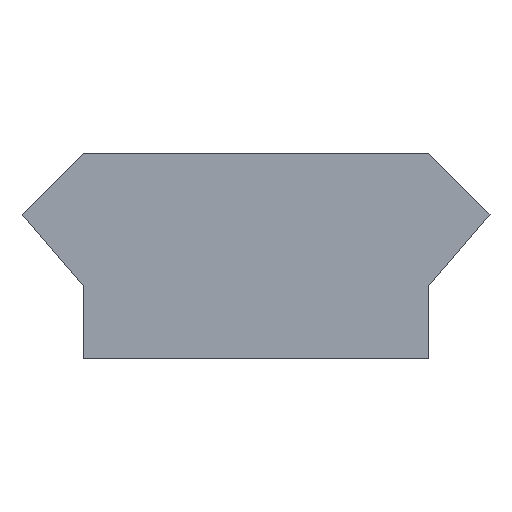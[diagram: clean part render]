
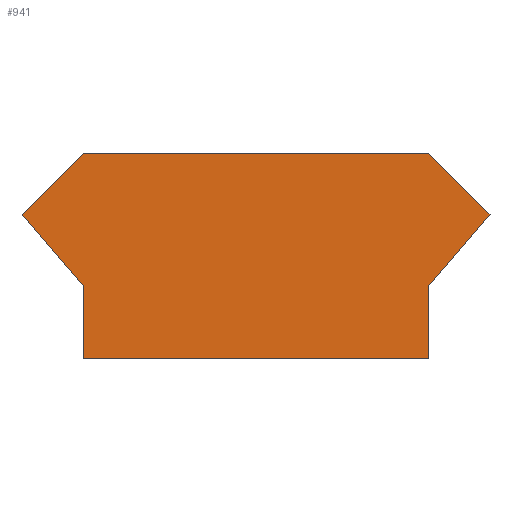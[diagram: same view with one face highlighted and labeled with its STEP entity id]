
A CAD part, front view. The second image highlights one B-rep face of the part: STEP entity #941.
In plain terms, the highlighted planar face has unit normal (0, -1, 0).
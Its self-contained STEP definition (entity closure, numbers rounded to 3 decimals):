
#24 = VERTEX_POINT('',#25);
#25 = CARTESIAN_POINT('',(-7.835,-45.,0.));
#32 = PLANE('',#33);
#33 = AXIS2_PLACEMENT_3D('',#34,#35,#36);
#34 = CARTESIAN_POINT('',(-7.835,0.,0.));
#35 = DIRECTION('',(-1.,0.,0.));
#36 = DIRECTION('',(0.,0.,1.));
#44 = PLANE('',#45);
#45 = AXIS2_PLACEMENT_3D('',#46,#47,#48);
#46 = CARTESIAN_POINT('',(7.835,0.,0.));
#47 = DIRECTION('',(0.,0.,-1.));
#48 = DIRECTION('',(-1.,0.,0.));
#56 = EDGE_CURVE('',#24,#57,#59,.T.);
#57 = VERTEX_POINT('',#58);
#58 = CARTESIAN_POINT('',(-7.835,-45.,3.32));
#59 = SURFACE_CURVE('',#60,(#64,#71),.PCURVE_S1.);
#60 = LINE('',#61,#62);
#61 = CARTESIAN_POINT('',(-7.835,-45.,0.));
#62 = VECTOR('',#63,1.);
#63 = DIRECTION('',(0.,0.,1.));
#64 = PCURVE('',#32,#65);
#65 = DEFINITIONAL_REPRESENTATION('',(#66),#70);
#66 = LINE('',#67,#68);
#67 = CARTESIAN_POINT('',(0.,-45.));
#68 = VECTOR('',#69,1.);
#69 = DIRECTION('',(1.,0.));
#70 = ( GEOMETRIC_REPRESENTATION_CONTEXT(2) 
PARAMETRIC_REPRESENTATION_CONTEXT() REPRESENTATION_CONTEXT('2D SPACE',''
  ) );
#71 = PCURVE('',#72,#77);
#72 = PLANE('',#73);
#73 = AXIS2_PLACEMENT_3D('',#74,#75,#76);
#74 = CARTESIAN_POINT('',(0.,-45.,4.809));
#75 = DIRECTION('',(0.,1.,0.));
#76 = DIRECTION('',(0.,0.,1.));
#77 = DEFINITIONAL_REPRESENTATION('',(#78),#82);
#78 = LINE('',#79,#80);
#79 = CARTESIAN_POINT('',(-4.809,-7.835));
#80 = VECTOR('',#81,1.);
#81 = DIRECTION('',(1.,0.));
#82 = ( GEOMETRIC_REPRESENTATION_CONTEXT(2) 
PARAMETRIC_REPRESENTATION_CONTEXT() REPRESENTATION_CONTEXT('2D SPACE',''
  ) );
#100 = PLANE('',#101);
#101 = AXIS2_PLACEMENT_3D('',#102,#103,#104);
#102 = CARTESIAN_POINT('',(-7.835,0.,3.32));
#103 = DIRECTION('',(-0.76,0.,-0.65
    ));
#104 = DIRECTION('',(-0.65,0.,0.76)
  );
#144 = VERTEX_POINT('',#145);
#145 = CARTESIAN_POINT('',(7.835,-45.,0.));
#159 = PLANE('',#160);
#160 = AXIS2_PLACEMENT_3D('',#161,#162,#163);
#161 = CARTESIAN_POINT('',(7.835,0.,3.32));
#162 = DIRECTION('',(1.,0.,0.));
#163 = DIRECTION('',(0.,0.,-1.));
#171 = EDGE_CURVE('',#144,#24,#172,.T.);
#172 = SURFACE_CURVE('',#173,(#177,#184),.PCURVE_S1.);
#173 = LINE('',#174,#175);
#174 = CARTESIAN_POINT('',(7.835,-45.,0.));
#175 = VECTOR('',#176,1.);
#176 = DIRECTION('',(-1.,0.,0.));
#177 = PCURVE('',#44,#178);
#178 = DEFINITIONAL_REPRESENTATION('',(#179),#183);
#179 = LINE('',#180,#181);
#180 = CARTESIAN_POINT('',(0.,-45.));
#181 = VECTOR('',#182,1.);
#182 = DIRECTION('',(1.,0.));
#183 = ( GEOMETRIC_REPRESENTATION_CONTEXT(2) 
PARAMETRIC_REPRESENTATION_CONTEXT() REPRESENTATION_CONTEXT('2D SPACE',''
  ) );
#184 = PCURVE('',#72,#185);
#185 = DEFINITIONAL_REPRESENTATION('',(#186),#190);
#186 = LINE('',#187,#188);
#187 = CARTESIAN_POINT('',(-4.809,7.835));
#188 = VECTOR('',#189,1.);
#189 = DIRECTION('',(0.,-1.));
#190 = ( GEOMETRIC_REPRESENTATION_CONTEXT(2) 
PARAMETRIC_REPRESENTATION_CONTEXT() REPRESENTATION_CONTEXT('2D SPACE',''
  ) );
#311 = EDGE_CURVE('',#57,#312,#314,.T.);
#312 = VERTEX_POINT('',#313);
#313 = CARTESIAN_POINT('',(-10.6,-45.,6.555));
#314 = SURFACE_CURVE('',#315,(#319,#326),.PCURVE_S1.);
#315 = LINE('',#316,#317);
#316 = CARTESIAN_POINT('',(-7.835,-45.,3.32));
#317 = VECTOR('',#318,1.);
#318 = DIRECTION('',(-0.65,0.,0.76)
  );
#319 = PCURVE('',#100,#320);
#320 = DEFINITIONAL_REPRESENTATION('',(#321),#325);
#321 = LINE('',#322,#323);
#322 = CARTESIAN_POINT('',(0.,-45.));
#323 = VECTOR('',#324,1.);
#324 = DIRECTION('',(1.,0.));
#325 = ( GEOMETRIC_REPRESENTATION_CONTEXT(2) 
PARAMETRIC_REPRESENTATION_CONTEXT() REPRESENTATION_CONTEXT('2D SPACE',''
  ) );
#326 = PCURVE('',#72,#327);
#327 = DEFINITIONAL_REPRESENTATION('',(#328),#332);
#328 = LINE('',#329,#330);
#329 = CARTESIAN_POINT('',(-1.489,-7.835));
#330 = VECTOR('',#331,1.);
#331 = DIRECTION('',(0.76,-0.65));
#332 = ( GEOMETRIC_REPRESENTATION_CONTEXT(2) 
PARAMETRIC_REPRESENTATION_CONTEXT() REPRESENTATION_CONTEXT('2D SPACE',''
  ) );
#350 = PLANE('',#351);
#351 = AXIS2_PLACEMENT_3D('',#352,#353,#354);
#352 = CARTESIAN_POINT('',(-10.6,0.,6.555));
#353 = DIRECTION('',(-0.707,0.,0.707)
  );
#354 = DIRECTION('',(0.707,0.,0.707));
#908 = PLANE('',#909);
#909 = AXIS2_PLACEMENT_3D('',#910,#911,#912);
#910 = CARTESIAN_POINT('',(10.6,0.,6.555));
#911 = DIRECTION('',(0.76,0.,-0.65)
  );
#912 = DIRECTION('',(-0.65,0.,-0.76
    ));
#941 = ADVANCED_FACE('',(#942),#72,.F.);
#942 = FACE_BOUND('',#943,.F.);
#943 = EDGE_LOOP('',(#944,#945,#946,#969,#997,#1025,#1048,#1069));
#944 = ORIENTED_EDGE('',*,*,#56,.T.);
#945 = ORIENTED_EDGE('',*,*,#311,.T.);
#946 = ORIENTED_EDGE('',*,*,#947,.T.);
#947 = EDGE_CURVE('',#312,#948,#950,.T.);
#948 = VERTEX_POINT('',#949);
#949 = CARTESIAN_POINT('',(-7.835,-45.,9.32));
#950 = SURFACE_CURVE('',#951,(#955,#962),.PCURVE_S1.);
#951 = LINE('',#952,#953);
#952 = CARTESIAN_POINT('',(-10.6,-45.,6.555));
#953 = VECTOR('',#954,1.);
#954 = DIRECTION('',(0.707,0.,0.707));
#955 = PCURVE('',#72,#956);
#956 = DEFINITIONAL_REPRESENTATION('',(#957),#961);
#957 = LINE('',#958,#959);
#958 = CARTESIAN_POINT('',(1.746,-10.6));
#959 = VECTOR('',#960,1.);
#960 = DIRECTION('',(0.707,0.707));
#961 = ( GEOMETRIC_REPRESENTATION_CONTEXT(2) 
PARAMETRIC_REPRESENTATION_CONTEXT() REPRESENTATION_CONTEXT('2D SPACE',''
  ) );
#962 = PCURVE('',#350,#963);
#963 = DEFINITIONAL_REPRESENTATION('',(#964),#968);
#964 = LINE('',#965,#966);
#965 = CARTESIAN_POINT('',(0.,-45.));
#966 = VECTOR('',#967,1.);
#967 = DIRECTION('',(1.,0.));
#968 = ( GEOMETRIC_REPRESENTATION_CONTEXT(2) 
PARAMETRIC_REPRESENTATION_CONTEXT() REPRESENTATION_CONTEXT('2D SPACE',''
  ) );
#969 = ORIENTED_EDGE('',*,*,#970,.T.);
#970 = EDGE_CURVE('',#948,#971,#973,.T.);
#971 = VERTEX_POINT('',#972);
#972 = CARTESIAN_POINT('',(7.835,-45.,9.32));
#973 = SURFACE_CURVE('',#974,(#978,#985),.PCURVE_S1.);
#974 = LINE('',#975,#976);
#975 = CARTESIAN_POINT('',(-7.835,-45.,9.32));
#976 = VECTOR('',#977,1.);
#977 = DIRECTION('',(1.,0.,0.));
#978 = PCURVE('',#72,#979);
#979 = DEFINITIONAL_REPRESENTATION('',(#980),#984);
#980 = LINE('',#981,#982);
#981 = CARTESIAN_POINT('',(4.511,-7.835));
#982 = VECTOR('',#983,1.);
#983 = DIRECTION('',(0.,1.));
#984 = ( GEOMETRIC_REPRESENTATION_CONTEXT(2) 
PARAMETRIC_REPRESENTATION_CONTEXT() REPRESENTATION_CONTEXT('2D SPACE',''
  ) );
#985 = PCURVE('',#986,#991);
#986 = PLANE('',#987);
#987 = AXIS2_PLACEMENT_3D('',#988,#989,#990);
#988 = CARTESIAN_POINT('',(-7.835,0.,9.32));
#989 = DIRECTION('',(0.,0.,1.));
#990 = DIRECTION('',(1.,0.,0.));
#991 = DEFINITIONAL_REPRESENTATION('',(#992),#996);
#992 = LINE('',#993,#994);
#993 = CARTESIAN_POINT('',(0.,-45.));
#994 = VECTOR('',#995,1.);
#995 = DIRECTION('',(1.,0.));
#996 = ( GEOMETRIC_REPRESENTATION_CONTEXT(2) 
PARAMETRIC_REPRESENTATION_CONTEXT() REPRESENTATION_CONTEXT('2D SPACE',''
  ) );
#997 = ORIENTED_EDGE('',*,*,#998,.T.);
#998 = EDGE_CURVE('',#971,#999,#1001,.T.);
#999 = VERTEX_POINT('',#1000);
#1000 = CARTESIAN_POINT('',(10.6,-45.,6.555));
#1001 = SURFACE_CURVE('',#1002,(#1006,#1013),.PCURVE_S1.);
#1002 = LINE('',#1003,#1004);
#1003 = CARTESIAN_POINT('',(7.835,-45.,9.32));
#1004 = VECTOR('',#1005,1.);
#1005 = DIRECTION('',(0.707,0.,-0.707
    ));
#1006 = PCURVE('',#72,#1007);
#1007 = DEFINITIONAL_REPRESENTATION('',(#1008),#1012);
#1008 = LINE('',#1009,#1010);
#1009 = CARTESIAN_POINT('',(4.511,7.835));
#1010 = VECTOR('',#1011,1.);
#1011 = DIRECTION('',(-0.707,0.707));
#1012 = ( GEOMETRIC_REPRESENTATION_CONTEXT(2) 
PARAMETRIC_REPRESENTATION_CONTEXT() REPRESENTATION_CONTEXT('2D SPACE',''
  ) );
#1013 = PCURVE('',#1014,#1019);
#1014 = PLANE('',#1015);
#1015 = AXIS2_PLACEMENT_3D('',#1016,#1017,#1018);
#1016 = CARTESIAN_POINT('',(7.835,0.,9.32));
#1017 = DIRECTION('',(0.707,0.,0.707)
  );
#1018 = DIRECTION('',(0.707,0.,-0.707
    ));
#1019 = DEFINITIONAL_REPRESENTATION('',(#1020),#1024);
#1020 = LINE('',#1021,#1022);
#1021 = CARTESIAN_POINT('',(0.,-45.));
#1022 = VECTOR('',#1023,1.);
#1023 = DIRECTION('',(1.,0.));
#1024 = ( GEOMETRIC_REPRESENTATION_CONTEXT(2) 
PARAMETRIC_REPRESENTATION_CONTEXT() REPRESENTATION_CONTEXT('2D SPACE',''
  ) );
#1025 = ORIENTED_EDGE('',*,*,#1026,.T.);
#1026 = EDGE_CURVE('',#999,#1027,#1029,.T.);
#1027 = VERTEX_POINT('',#1028);
#1028 = CARTESIAN_POINT('',(7.835,-45.,3.32));
#1029 = SURFACE_CURVE('',#1030,(#1034,#1041),.PCURVE_S1.);
#1030 = LINE('',#1031,#1032);
#1031 = CARTESIAN_POINT('',(10.6,-45.,6.555));
#1032 = VECTOR('',#1033,1.);
#1033 = DIRECTION('',(-0.65,0.,
    -0.76));
#1034 = PCURVE('',#72,#1035);
#1035 = DEFINITIONAL_REPRESENTATION('',(#1036),#1040);
#1036 = LINE('',#1037,#1038);
#1037 = CARTESIAN_POINT('',(1.746,10.6));
#1038 = VECTOR('',#1039,1.);
#1039 = DIRECTION('',(-0.76,-0.65));
#1040 = ( GEOMETRIC_REPRESENTATION_CONTEXT(2) 
PARAMETRIC_REPRESENTATION_CONTEXT() REPRESENTATION_CONTEXT('2D SPACE',''
  ) );
#1041 = PCURVE('',#908,#1042);
#1042 = DEFINITIONAL_REPRESENTATION('',(#1043),#1047);
#1043 = LINE('',#1044,#1045);
#1044 = CARTESIAN_POINT('',(0.,-45.));
#1045 = VECTOR('',#1046,1.);
#1046 = DIRECTION('',(1.,0.));
#1047 = ( GEOMETRIC_REPRESENTATION_CONTEXT(2) 
PARAMETRIC_REPRESENTATION_CONTEXT() REPRESENTATION_CONTEXT('2D SPACE',''
  ) );
#1048 = ORIENTED_EDGE('',*,*,#1049,.T.);
#1049 = EDGE_CURVE('',#1027,#144,#1050,.T.);
#1050 = SURFACE_CURVE('',#1051,(#1055,#1062),.PCURVE_S1.);
#1051 = LINE('',#1052,#1053);
#1052 = CARTESIAN_POINT('',(7.835,-45.,3.32));
#1053 = VECTOR('',#1054,1.);
#1054 = DIRECTION('',(0.,0.,-1.));
#1055 = PCURVE('',#72,#1056);
#1056 = DEFINITIONAL_REPRESENTATION('',(#1057),#1061);
#1057 = LINE('',#1058,#1059);
#1058 = CARTESIAN_POINT('',(-1.489,7.835));
#1059 = VECTOR('',#1060,1.);
#1060 = DIRECTION('',(-1.,0.));
#1061 = ( GEOMETRIC_REPRESENTATION_CONTEXT(2) 
PARAMETRIC_REPRESENTATION_CONTEXT() REPRESENTATION_CONTEXT('2D SPACE',''
  ) );
#1062 = PCURVE('',#159,#1063);
#1063 = DEFINITIONAL_REPRESENTATION('',(#1064),#1068);
#1064 = LINE('',#1065,#1066);
#1065 = CARTESIAN_POINT('',(0.,-45.));
#1066 = VECTOR('',#1067,1.);
#1067 = DIRECTION('',(1.,0.));
#1068 = ( GEOMETRIC_REPRESENTATION_CONTEXT(2) 
PARAMETRIC_REPRESENTATION_CONTEXT() REPRESENTATION_CONTEXT('2D SPACE',''
  ) );
#1069 = ORIENTED_EDGE('',*,*,#171,.T.);
